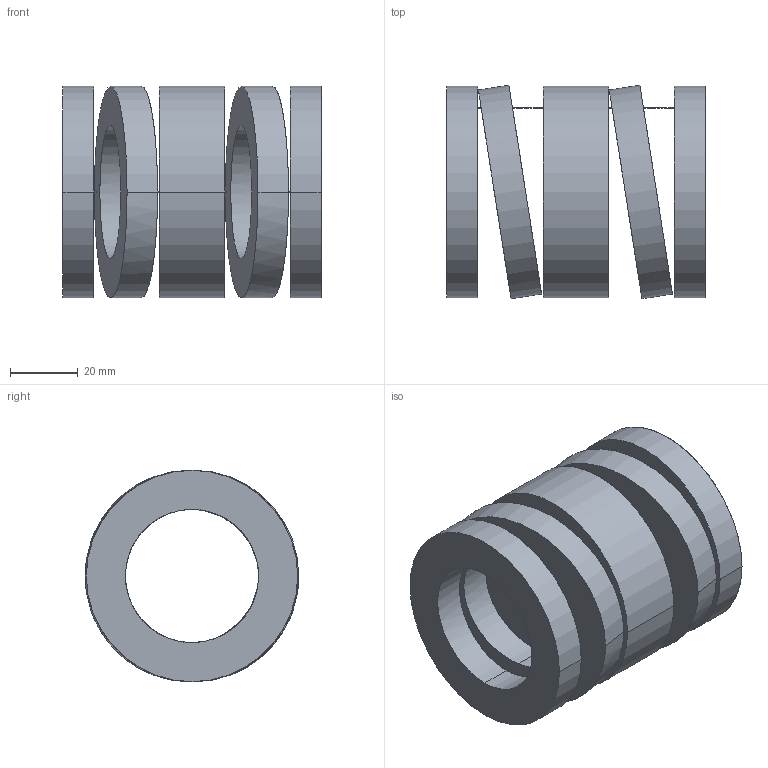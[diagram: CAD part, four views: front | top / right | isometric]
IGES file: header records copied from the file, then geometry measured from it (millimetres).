
Start section: START RECORD GO HERE.
Global section: file name: 392-B63-076.igs; native system: DASSAULT SYSTEMES CATIA V5 R20 - www.3ds.com; preprocessor: CATIA Version 5 Release 20 ; author: Utente; organization: NB04-ASUS; date: 20210813.140504; units: millimetre
Bounding box: 76 x 62.86 x 62.2 mm (x, y, z)
Surface area: 36031.1 mm2 (no closed solid volume)
Topology: 0 solids, 0 shells, 38 faces, 184 edges, 184 vertices
Faces by surface type: revolution 28, plane 10
